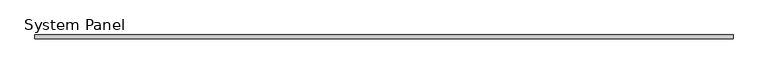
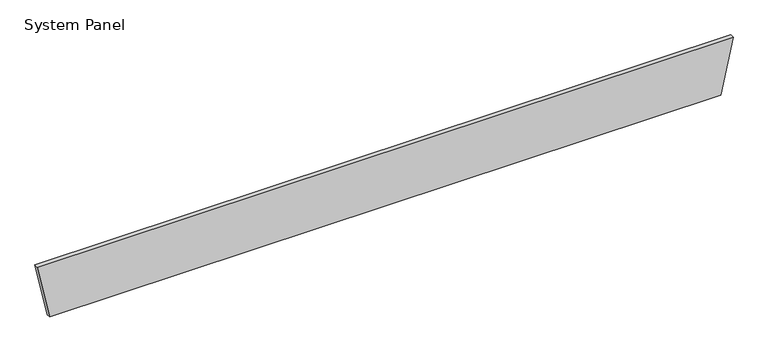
"""IFC4 building model written with IfcOpenShell, lengths in millimetres: plate geometry, System Panel : MetecnoPanel_75mm_Plain_Surfmist."""

import ifcopenshell
import ifcopenshell.guid

model = None  # the IFC model being written
_history = None  # IfcOwnerHistory: only IFC2X3 demands one
_inside = {}  # id of a spatial element -> (the spatial element, [elements in it])
_under = {}  # id of a project, library or spatial element -> (it, [spatial elements below it])
_declared = {}  # id of a project -> (the project, [libraries it declares])
_typed = {}  # id of a type object -> (the type object, [elements of that type])
_made_of = {}  # id of a material, layer set ... -> (it, [elements and type objects made of it])


def new_model(schema):
    """Start an empty IFC model of exactly this schema.

    Asked for "IFC4X3", IfcOpenShell would pick the latest addendum, in which some entities
    have other attributes; the version numbers below select the first issue.
    IFC2X3 requires an IfcOwnerHistory on every rooted entity: one is made here for all.
    """
    global model, _history
    if schema == "IFC4X3":
        model = ifcopenshell.file(schema_version=(4, 3, 0, 0))
    else:
        model = ifcopenshell.file(schema=schema)
    _inside.clear()
    _under.clear()
    _declared.clear()
    _typed.clear()
    _made_of.clear()
    _history = None
    if model.schema == "IFC2X3":
        org = make("IfcOrganization", Name="unknown")
        user = make(
            "IfcPersonAndOrganization",
            ThePerson=make("IfcPerson", FamilyName="unknown"),
            TheOrganization=org,
        )
        app = make(
            "IfcApplication",
            ApplicationDeveloper=org,
            Version="unknown",
            ApplicationFullName="unknown",
            ApplicationIdentifier="unknown",
        )
        _history = make(
            "IfcOwnerHistory",
            OwningUser=user,
            OwningApplication=app,
            ChangeAction="ADDED",
            CreationDate=0,
        )
    return model


def make(cls, **values):
    """One entity of the class cls with the attributes given. An attribute that is None is left unset."""
    return model.create_entity(
        cls, **{name: value for name, value in values.items() if value is not None}
    )


def rooted(cls, **values):
    """An entity with a GlobalId (a new one), such as an element, a storey or a relation."""
    return make(cls, GlobalId=ifcopenshell.guid.new(), OwnerHistory=_history, **values)


def si_unit(unit_type, name, prefix=None):
    """IfcSIUnit, for example si_unit("LENGTHUNIT", "METRE", prefix="MILLI")."""
    return make("IfcSIUnit", UnitType=unit_type, Prefix=prefix, Name=name)


def assignment(units):
    """IfcUnitAssignment: the units of a project."""
    return None if units is None else make("IfcUnitAssignment", Units=units)


def point(xyz):
    """IfcCartesianPoint."""
    return None if xyz is None else make("IfcCartesianPoint", Coordinates=xyz)


def direction(xyz):
    """IfcDirection."""
    return None if xyz is None else make("IfcDirection", DirectionRatios=xyz)


def frame(location, z_axis=None, x_axis=None):
    """IfcAxis2Placement3D, a coordinate frame: its origin and axes. An axis left out is left unset."""
    return make(
        "IfcAxis2Placement3D",
        Location=point(location),
        Axis=direction(z_axis),
        RefDirection=direction(x_axis),
    )


def origin():
    """The frame at (0, 0, 0) with its axes left unset."""
    return frame((0.0, 0.0, 0.0))


def place(relative_to, where):
    """IfcLocalPlacement: puts the frame where relative to a parent placement (None: the world)."""
    return make(
        "IfcLocalPlacement", PlacementRelTo=relative_to, RelativePlacement=where
    )


def context(
    kind, dimensions, precision=None, world=None, true_north=None, identifier=None
):
    """IfcGeometricRepresentationContext, for example the 3D "Model" context."""
    return make(
        "IfcGeometricRepresentationContext",
        ContextIdentifier=identifier,
        ContextType=kind,
        CoordinateSpaceDimension=dimensions,
        Precision=precision,
        WorldCoordinateSystem=world,
        TrueNorth=true_north,
    )


def project(units=None, contexts=None):
    """IfcProject with its units and contexts."""
    return rooted(
        "IfcProject",
        Name="project",
        RepresentationContexts=contexts,
        UnitsInContext=assignment(units),
    )


def spatial(cls, under=None, at=None, **own):
    """A site, building, storey or space (cls), placed at a placement, below another one or the project."""
    s = rooted(cls, ObjectPlacement=at, **own)
    if under is not None:
        _under.setdefault(under.id(), (under, []))[1].append(s)
    return s


def polyline(points):
    """IfcPolyline through the points."""
    return make("IfcPolyline", Points=[point(p) for p in points])


def outline(outer, holes=None, kind="AREA"):
    """IfcArbitraryClosedProfileDef: a profile drawn as a closed curve; with holes, ...WithVoids."""
    if holes is None:
        return make("IfcArbitraryClosedProfileDef", ProfileType=kind, OuterCurve=outer)
    return make(
        "IfcArbitraryProfileDefWithVoids",
        ProfileType=kind,
        OuterCurve=outer,
        InnerCurves=holes,
    )


def extrude(swept, where, along, depth):
    """IfcExtrudedAreaSolid: the profile swept, set in the frame where, extruded along a direction by depth."""
    return make(
        "IfcExtrudedAreaSolid",
        SweptArea=swept,
        Position=where,
        ExtrudedDirection=direction(along),
        Depth=depth,
    )


def shape(context_of_items, identifier, shape_type, items):
    """IfcShapeRepresentation: the items that make up one representation, for example the "Body"."""
    return make(
        "IfcShapeRepresentation",
        ContextOfItems=context_of_items,
        RepresentationIdentifier=identifier,
        RepresentationType=shape_type,
        Items=items,
    )


def source(mapping_origin, context_of_items, identifier, shape_type, items):
    """IfcRepresentationMap: a shape defined once, which mapped items show again and again."""
    return make(
        "IfcRepresentationMap",
        MappingOrigin=mapping_origin,
        MappedRepresentation=shape(context_of_items, identifier, shape_type, items),
    )


def transform(
    local_origin,
    x_axis=None,
    y_axis=None,
    z_axis=None,
    scale=None,
    scale2=None,
    scale3=None,
    uniform=True,
):
    """IfcCartesianTransformationOperator3D, or its non-uniform kind. x_axis, y_axis, z_axis: its Axis1, 2, 3."""
    if uniform:
        return make(
            "IfcCartesianTransformationOperator3D",
            Axis1=direction(x_axis),
            Axis2=direction(y_axis),
            LocalOrigin=point(local_origin),
            Scale=scale,
            Axis3=direction(z_axis),
        )
    return make(
        "IfcCartesianTransformationOperator3DnonUniform",
        Axis1=direction(x_axis),
        Axis2=direction(y_axis),
        LocalOrigin=point(local_origin),
        Scale=scale,
        Axis3=direction(z_axis),
        Scale2=scale2,
        Scale3=scale3,
    )


def mapped(mapping_source, mapping_target):
    """IfcMappedItem: shows the shape of a source again, moved by a transform."""
    return make(
        "IfcMappedItem", MappingSource=mapping_source, MappingTarget=mapping_target
    )


def made_of(thing, what):
    """Note that an element or type object is made of a material, layer set ...; save() writes the relation."""
    if what is not None:
        _made_of.setdefault(what.id(), (what, []))[1].append(thing)
    return thing


def element(
    cls,
    number,
    at=None,
    inside=None,
    cuts=None,
    type_object=None,
    material=None,
    context=None,
    identifier="Body",
    shape_type=None,
    held_by="IfcProductDefinitionShape",
    body=None,
    shapes=None,
    **own,
):
    """One element of the class cls, such as IfcWall. Its Tag is "e" and its number.

    at: its placement. inside: the storey or other place that contains it. cuts: it is an
    opening in that element (IfcRelVoidsElement). A single representation is given by context,
    identifier, shape_type and body (its items); several are given by shapes. held_by: the class
    of the entity that holds the representations. save() writes the other relations.
    """
    e = rooted(cls, Tag="e%d" % number, ObjectPlacement=at, **own)
    if body is not None:
        shapes = [shape(context, identifier, shape_type, body)]
    if shapes is not None:
        e.Representation = make(held_by, Representations=shapes)
    if inside is not None:
        _inside.setdefault(inside.id(), (inside, []))[1].append(e)
    if cuts is not None:
        rooted(
            "IfcRelVoidsElement", RelatingBuildingElement=cuts, RelatedOpeningElement=e
        )
    if type_object is not None:
        _typed.setdefault(type_object.id(), (type_object, []))[1].append(e)
    return made_of(e, material)


def aggregate(whole, parts):
    """IfcRelAggregates: a whole, such as a stair, and the parts it consists of."""
    return rooted("IfcRelAggregates", RelatingObject=whole, RelatedObjects=parts)


def save(model, path):
    """Write the relations noted so far, then the file.

    IfcRelAggregates (storeys below a building ...), IfcRelContainedInSpatialStructure (elements
    in a storey), IfcRelDefinesByType, IfcRelAssociatesMaterial and IfcRelDeclares: one each for
    every whole, place, type object, material and project.
    """
    for whole, parts in _under.values():
        aggregate(whole, parts)
    for where, things in _inside.values():
        rooted(
            "IfcRelContainedInSpatialStructure",
            RelatedElements=things,
            RelatingStructure=where,
        )
    for kind, things in _typed.values():
        rooted("IfcRelDefinesByType", RelatedObjects=things, RelatingType=kind)
    for what, things in _made_of.values():
        rooted("IfcRelAssociatesMaterial", RelatedObjects=things, RelatingMaterial=what)
    for by, libraries in _declared.values():
        rooted("IfcRelDeclares", RelatingContext=by, RelatedDefinitions=libraries)
    model.write(path)


def system_panel_7d9ebce2(model_context):
    return source(origin(), model_context, "Body", "SweptSolid", [
        extrude(outline(polyline([(0.0, -6478.2647134), (0.0, 6478.2647134), (1100.0, 6717.3970701), (1100.0, -6717.3970701), (0.0, -6478.2647134)])), frame((0.0, -75.0, 0.0), z_axis=(0.0, 1.0, 0.0), x_axis=(0.0, 0.0, 1.0)), (0.0, 0.0, 1.0), 75.0),
    ])


if __name__ == "__main__":
    model = new_model("IFC4")
    model_context = context("Model", 3, world=origin())
    ifc_project = project(units=[si_unit("LENGTHUNIT", "METRE", prefix="MILLI")], contexts=[model_context])
    site = spatial("IfcSite", under=ifc_project)
    building = spatial("IfcBuilding", under=site)
    placement = place(None, origin())
    system_panel_shape = system_panel_7d9ebce2(model_context)
    element("IfcPlate", 1, ObjectType="System Panel : MetecnoPanel_75mm_Plain_Surfmist", at=placement, inside=building, context=model_context, shape_type="MappedRepresentation", body=[
        mapped(system_panel_shape, transform((0.0, 0.0, 0.0), x_axis=(1.0, 0.0, 0.0), y_axis=(0.0, 1.0, 0.0), z_axis=(0.0, 0.0, 1.0))),
    ])
    save(model, "model.ifc")
